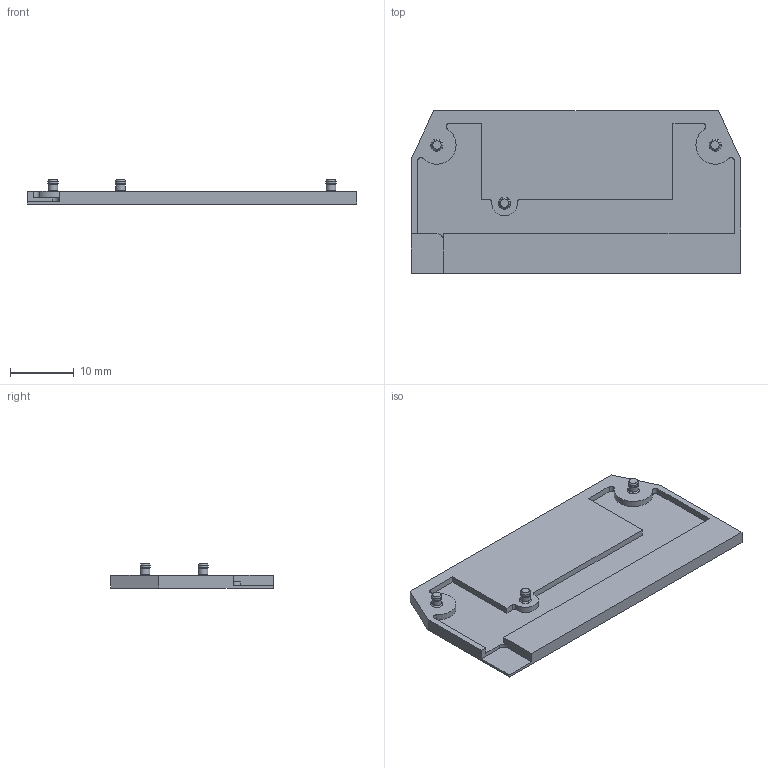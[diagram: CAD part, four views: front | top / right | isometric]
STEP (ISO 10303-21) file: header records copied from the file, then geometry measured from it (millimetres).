
FILE_DESCRIPTION (( 'STEP AP203' ), '1' );
FILE_NAME ('署赅 阎褪.757537.057.STEP', '2019-12-09T13:13:49', ( '' ), ( '' ), 'SwSTEP 2.0', 'SolidWorks 2016', '' );
FILE_SCHEMA (( 'CONFIG_CONTROL_DESIGN' ));
Length unit declared in the file: millimetre
Products named in the file (1): 署赅 阎褪.757537.057
Bounding box: 51.6 x 25.5 x 3.8 mm (x, y, z)
Volume: 1738.4 mm3; surface area: 3272.9 mm2
Topology: 1 solids, 1 shells, 314 faces, 816 edges, 540 vertices
Faces by surface type: plane 179, bspline 103, cylinder 23, cone 9
Full cylindrical faces by diameter (mm): 1.5 x3, 1.6 x3, 2 x3
Entity records: 15101 total; most frequent: CARTESIAN_POINT 8052, ORIENTED_EDGE 1596, DIRECTION 1068, EDGE_CURVE 798, VERTEX_POINT 540, LINE 540, VECTOR 540, EDGE_LOOP 368
